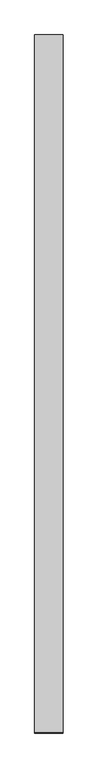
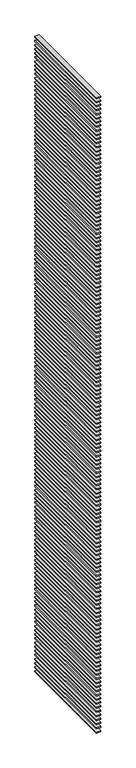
"""IFC4 building model written with IfcOpenShell, lengths in millimetres: proxy geometry, 水平ルーバー（Ｌ型） : ｈ50ｄ200＠200."""

from ifc_helpers import new_model, si_unit, frame, origin, place, context, project, spatial, polyline, outline, extrude, source, transform, mapped, element, save


def generic_models_310be010(model_context):
    return source(origin(), model_context, "Body", "SweptSolid", [
        extrude(outline(polyline([(-100.0, -4895.0), (-300.0, -4895.0), (-300.0, 0.0), (-100.0, 0.0), (-100.0, -4895.0)])), frame((0.0, 0.0, 30975.0), z_axis=(0.0, 0.0, 1.0), x_axis=(1.0, 0.0, 0.0)), (0.0, 0.0, 1.0), 50.0),
        extrude(outline(polyline([(-100.0, -4895.0), (-300.0, -4895.0), (-300.0, 0.0), (-100.0, 0.0), (-100.0, -4895.0)])), frame((0.0, 0.0, 30775.0), z_axis=(0.0, 0.0, 1.0), x_axis=(1.0, 0.0, 0.0)), (0.0, 0.0, 1.0), 50.0),
        extrude(outline(polyline([(-100.0, -4895.0), (-300.0, -4895.0), (-300.0, 0.0), (-100.0, 0.0), (-100.0, -4895.0)])), frame((0.0, 0.0, 30575.0), z_axis=(0.0, 0.0, 1.0), x_axis=(1.0, 0.0, 0.0)), (0.0, 0.0, 1.0), 50.0),
        extrude(outline(polyline([(-100.0, -4895.0), (-300.0, -4895.0), (-300.0, 0.0), (-100.0, 0.0), (-100.0, -4895.0)])), frame((0.0, 0.0, 30375.0), z_axis=(0.0, 0.0, 1.0), x_axis=(1.0, 0.0, 0.0)), (0.0, 0.0, 1.0), 50.0),
        extrude(outline(polyline([(-100.0, -4895.0), (-300.0, -4895.0), (-300.0, 0.0), (-100.0, 0.0), (-100.0, -4895.0)])), frame((0.0, 0.0, 30175.0), z_axis=(0.0, 0.0, 1.0), x_axis=(1.0, 0.0, 0.0)), (0.0, 0.0, 1.0), 50.0),
        extrude(outline(polyline([(-100.0, -4895.0), (-300.0, -4895.0), (-300.0, 0.0), (-100.0, 0.0), (-100.0, -4895.0)])), frame((0.0, 0.0, 29975.0), z_axis=(0.0, 0.0, 1.0), x_axis=(1.0, 0.0, 0.0)), (0.0, 0.0, 1.0), 50.0),
        extrude(outline(polyline([(-100.0, -4895.0), (-300.0, -4895.0), (-300.0, 0.0), (-100.0, 0.0), (-100.0, -4895.0)])), frame((0.0, 0.0, 29775.0), z_axis=(0.0, 0.0, 1.0), x_axis=(1.0, 0.0, 0.0)), (0.0, 0.0, 1.0), 50.0),
        extrude(outline(polyline([(-100.0, -4895.0), (-300.0, -4895.0), (-300.0, 0.0), (-100.0, 0.0), (-100.0, -4895.0)])), frame((0.0, 0.0, 29575.0), z_axis=(0.0, 0.0, 1.0), x_axis=(1.0, 0.0, 0.0)), (0.0, 0.0, 1.0), 50.0),
        extrude(outline(polyline([(-100.0, -4895.0), (-300.0, -4895.0), (-300.0, 0.0), (-100.0, 0.0), (-100.0, -4895.0)])), frame((0.0, 0.0, 29375.0), z_axis=(0.0, 0.0, 1.0), x_axis=(1.0, 0.0, 0.0)), (0.0, 0.0, 1.0), 50.0),
        extrude(outline(polyline([(-100.0, -4895.0), (-300.0, -4895.0), (-300.0, 0.0), (-100.0, 0.0), (-100.0, -4895.0)])), frame((0.0, 0.0, 29175.0), z_axis=(0.0, 0.0, 1.0), x_axis=(1.0, 0.0, 0.0)), (0.0, 0.0, 1.0), 50.0),
        extrude(outline(polyline([(-100.0, -4895.0), (-300.0, -4895.0), (-300.0, 0.0), (-100.0, 0.0), (-100.0, -4895.0)])), frame((0.0, 0.0, 28975.0), z_axis=(0.0, 0.0, 1.0), x_axis=(1.0, 0.0, 0.0)), (0.0, 0.0, 1.0), 50.0),
        extrude(outline(polyline([(-100.0, -4895.0), (-300.0, -4895.0), (-300.0, 0.0), (-100.0, 0.0), (-100.0, -4895.0)])), frame((0.0, 0.0, 28775.0), z_axis=(0.0, 0.0, 1.0), x_axis=(1.0, 0.0, 0.0)), (0.0, 0.0, 1.0), 50.0),
        extrude(outline(polyline([(-100.0, -4895.0), (-300.0, -4895.0), (-300.0, 0.0), (-100.0, 0.0), (-100.0, -4895.0)])), frame((0.0, 0.0, 28575.0), z_axis=(0.0, 0.0, 1.0), x_axis=(1.0, 0.0, 0.0)), (0.0, 0.0, 1.0), 50.0),
        extrude(outline(polyline([(-100.0, -4895.0), (-300.0, -4895.0), (-300.0, 0.0), (-100.0, 0.0), (-100.0, -4895.0)])), frame((0.0, 0.0, 28375.0), z_axis=(0.0, 0.0, 1.0), x_axis=(1.0, 0.0, 0.0)), (0.0, 0.0, 1.0), 50.0),
        extrude(outline(polyline([(-100.0, -4895.0), (-300.0, -4895.0), (-300.0, 0.0), (-100.0, 0.0), (-100.0, -4895.0)])), frame((0.0, 0.0, 28175.0), z_axis=(0.0, 0.0, 1.0), x_axis=(1.0, 0.0, 0.0)), (0.0, 0.0, 1.0), 50.0),
        extrude(outline(polyline([(-100.0, -4895.0), (-300.0, -4895.0), (-300.0, 0.0), (-100.0, 0.0), (-100.0, -4895.0)])), frame((0.0, 0.0, 27975.0), z_axis=(0.0, 0.0, 1.0), x_axis=(1.0, 0.0, 0.0)), (0.0, 0.0, 1.0), 50.0),
        extrude(outline(polyline([(-100.0, -4895.0), (-300.0, -4895.0), (-300.0, 0.0), (-100.0, 0.0), (-100.0, -4895.0)])), frame((0.0, 0.0, 27775.0), z_axis=(0.0, 0.0, 1.0), x_axis=(1.0, 0.0, 0.0)), (0.0, 0.0, 1.0), 50.0),
        extrude(outline(polyline([(-100.0, -4895.0), (-300.0, -4895.0), (-300.0, 0.0), (-100.0, 0.0), (-100.0, -4895.0)])), frame((0.0, 0.0, 27575.0), z_axis=(0.0, 0.0, 1.0), x_axis=(1.0, 0.0, 0.0)), (0.0, 0.0, 1.0), 50.0),
        extrude(outline(polyline([(-100.0, -4895.0), (-300.0, -4895.0), (-300.0, 0.0), (-100.0, 0.0), (-100.0, -4895.0)])), frame((0.0, 0.0, 27375.0), z_axis=(0.0, 0.0, 1.0), x_axis=(1.0, 0.0, 0.0)), (0.0, 0.0, 1.0), 50.0),
        extrude(outline(polyline([(-100.0, -4895.0), (-300.0, -4895.0), (-300.0, 0.0), (-100.0, 0.0), (-100.0, -4895.0)])), frame((0.0, 0.0, 27175.0), z_axis=(0.0, 0.0, 1.0), x_axis=(1.0, 0.0, 0.0)), (0.0, 0.0, 1.0), 50.0),
        extrude(outline(polyline([(-100.0, -4895.0), (-300.0, -4895.0), (-300.0, 0.0), (-100.0, 0.0), (-100.0, -4895.0)])), frame((0.0, 0.0, 26975.0), z_axis=(0.0, 0.0, 1.0), x_axis=(1.0, 0.0, 0.0)), (0.0, 0.0, 1.0), 50.0),
        extrude(outline(polyline([(-100.0, -4895.0), (-300.0, -4895.0), (-300.0, 0.0), (-100.0, 0.0), (-100.0, -4895.0)])), frame((0.0, 0.0, 26775.0), z_axis=(0.0, 0.0, 1.0), x_axis=(1.0, 0.0, 0.0)), (0.0, 0.0, 1.0), 50.0),
        extrude(outline(polyline([(-100.0, -4895.0), (-300.0, -4895.0), (-300.0, 0.0), (-100.0, 0.0), (-100.0, -4895.0)])), frame((0.0, 0.0, 26575.0), z_axis=(0.0, 0.0, 1.0), x_axis=(1.0, 0.0, 0.0)), (0.0, 0.0, 1.0), 50.0),
        extrude(outline(polyline([(-100.0, -4895.0), (-300.0, -4895.0), (-300.0, 0.0), (-100.0, 0.0), (-100.0, -4895.0)])), frame((0.0, 0.0, 26375.0), z_axis=(0.0, 0.0, 1.0), x_axis=(1.0, 0.0, 0.0)), (0.0, 0.0, 1.0), 50.0),
        extrude(outline(polyline([(-100.0, -4895.0), (-300.0, -4895.0), (-300.0, 0.0), (-100.0, 0.0), (-100.0, -4895.0)])), frame((0.0, 0.0, 26175.0), z_axis=(0.0, 0.0, 1.0), x_axis=(1.0, 0.0, 0.0)), (0.0, 0.0, 1.0), 50.0),
        extrude(outline(polyline([(-100.0, -4895.0), (-300.0, -4895.0), (-300.0, 0.0), (-100.0, 0.0), (-100.0, -4895.0)])), frame((0.0, 0.0, 25975.0), z_axis=(0.0, 0.0, 1.0), x_axis=(1.0, 0.0, 0.0)), (0.0, 0.0, 1.0), 50.0),
        extrude(outline(polyline([(-100.0, -4895.0), (-300.0, -4895.0), (-300.0, 0.0), (-100.0, 0.0), (-100.0, -4895.0)])), frame((0.0, 0.0, 25775.0), z_axis=(0.0, 0.0, 1.0), x_axis=(1.0, 0.0, 0.0)), (0.0, 0.0, 1.0), 50.0),
        extrude(outline(polyline([(-100.0, -4895.0), (-300.0, -4895.0), (-300.0, 0.0), (-100.0, 0.0), (-100.0, -4895.0)])), frame((0.0, 0.0, 25575.0), z_axis=(0.0, 0.0, 1.0), x_axis=(1.0, 0.0, 0.0)), (0.0, 0.0, 1.0), 50.0),
        extrude(outline(polyline([(-100.0, -4895.0), (-300.0, -4895.0), (-300.0, 0.0), (-100.0, 0.0), (-100.0, -4895.0)])), frame((0.0, 0.0, 25375.0), z_axis=(0.0, 0.0, 1.0), x_axis=(1.0, 0.0, 0.0)), (0.0, 0.0, 1.0), 50.0),
        extrude(outline(polyline([(-100.0, -4895.0), (-300.0, -4895.0), (-300.0, 0.0), (-100.0, 0.0), (-100.0, -4895.0)])), frame((0.0, 0.0, 25175.0), z_axis=(0.0, 0.0, 1.0), x_axis=(1.0, 0.0, 0.0)), (0.0, 0.0, 1.0), 50.0),
        extrude(outline(polyline([(-100.0, -4895.0), (-300.0, -4895.0), (-300.0, 0.0), (-100.0, 0.0), (-100.0, -4895.0)])), frame((0.0, 0.0, 24975.0), z_axis=(0.0, 0.0, 1.0), x_axis=(1.0, 0.0, 0.0)), (0.0, 0.0, 1.0), 50.0),
        extrude(outline(polyline([(-100.0, -4895.0), (-300.0, -4895.0), (-300.0, 0.0), (-100.0, 0.0), (-100.0, -4895.0)])), frame((0.0, 0.0, 24775.0), z_axis=(0.0, 0.0, 1.0), x_axis=(1.0, 0.0, 0.0)), (0.0, 0.0, 1.0), 50.0),
        extrude(outline(polyline([(-100.0, -4895.0), (-300.0, -4895.0), (-300.0, 0.0), (-100.0, 0.0), (-100.0, -4895.0)])), frame((0.0, 0.0, 24575.0), z_axis=(0.0, 0.0, 1.0), x_axis=(1.0, 0.0, 0.0)), (0.0, 0.0, 1.0), 50.0),
        extrude(outline(polyline([(-100.0, -4895.0), (-300.0, -4895.0), (-300.0, 0.0), (-100.0, 0.0), (-100.0, -4895.0)])), frame((0.0, 0.0, 24375.0), z_axis=(0.0, 0.0, 1.0), x_axis=(1.0, 0.0, 0.0)), (0.0, 0.0, 1.0), 50.0),
        extrude(outline(polyline([(-100.0, -4895.0), (-300.0, -4895.0), (-300.0, 0.0), (-100.0, 0.0), (-100.0, -4895.0)])), frame((0.0, 0.0, 24175.0), z_axis=(0.0, 0.0, 1.0), x_axis=(1.0, 0.0, 0.0)), (0.0, 0.0, 1.0), 50.0),
        extrude(outline(polyline([(-100.0, -4895.0), (-300.0, -4895.0), (-300.0, 0.0), (-100.0, 0.0), (-100.0, -4895.0)])), frame((0.0, 0.0, 23975.0), z_axis=(0.0, 0.0, 1.0), x_axis=(1.0, 0.0, 0.0)), (0.0, 0.0, 1.0), 50.0),
        extrude(outline(polyline([(-100.0, -4895.0), (-300.0, -4895.0), (-300.0, 0.0), (-100.0, 0.0), (-100.0, -4895.0)])), frame((0.0, 0.0, 23775.0), z_axis=(0.0, 0.0, 1.0), x_axis=(1.0, 0.0, 0.0)), (0.0, 0.0, 1.0), 50.0),
        extrude(outline(polyline([(-100.0, -4895.0), (-300.0, -4895.0), (-300.0, 0.0), (-100.0, 0.0), (-100.0, -4895.0)])), frame((0.0, 0.0, 23575.0), z_axis=(0.0, 0.0, 1.0), x_axis=(1.0, 0.0, 0.0)), (0.0, 0.0, 1.0), 50.0),
        extrude(outline(polyline([(-100.0, -4895.0), (-300.0, -4895.0), (-300.0, 0.0), (-100.0, 0.0), (-100.0, -4895.0)])), frame((0.0, 0.0, 23375.0), z_axis=(0.0, 0.0, 1.0), x_axis=(1.0, 0.0, 0.0)), (0.0, 0.0, 1.0), 50.0),
        extrude(outline(polyline([(-100.0, -4895.0), (-300.0, -4895.0), (-300.0, 0.0), (-100.0, 0.0), (-100.0, -4895.0)])), frame((0.0, 0.0, 23175.0), z_axis=(0.0, 0.0, 1.0), x_axis=(1.0, 0.0, 0.0)), (0.0, 0.0, 1.0), 50.0),
        extrude(outline(polyline([(-100.0, -4895.0), (-300.0, -4895.0), (-300.0, 0.0), (-100.0, 0.0), (-100.0, -4895.0)])), frame((0.0, 0.0, 22975.0), z_axis=(0.0, 0.0, 1.0), x_axis=(1.0, 0.0, 0.0)), (0.0, 0.0, 1.0), 50.0),
        extrude(outline(polyline([(-100.0, -4895.0), (-300.0, -4895.0), (-300.0, 0.0), (-100.0, 0.0), (-100.0, -4895.0)])), frame((0.0, 0.0, 22775.0), z_axis=(0.0, 0.0, 1.0), x_axis=(1.0, 0.0, 0.0)), (0.0, 0.0, 1.0), 50.0),
        extrude(outline(polyline([(-100.0, -4895.0), (-300.0, -4895.0), (-300.0, 0.0), (-100.0, 0.0), (-100.0, -4895.0)])), frame((0.0, 0.0, 22575.0), z_axis=(0.0, 0.0, 1.0), x_axis=(1.0, 0.0, 0.0)), (0.0, 0.0, 1.0), 50.0),
        extrude(outline(polyline([(-100.0, -4895.0), (-300.0, -4895.0), (-300.0, 0.0), (-100.0, 0.0), (-100.0, -4895.0)])), frame((0.0, 0.0, 22375.0), z_axis=(0.0, 0.0, 1.0), x_axis=(1.0, 0.0, 0.0)), (0.0, 0.0, 1.0), 50.0),
        extrude(outline(polyline([(-100.0, -4895.0), (-300.0, -4895.0), (-300.0, 0.0), (-100.0, 0.0), (-100.0, -4895.0)])), frame((0.0, 0.0, 22175.0), z_axis=(0.0, 0.0, 1.0), x_axis=(1.0, 0.0, 0.0)), (0.0, 0.0, 1.0), 50.0),
        extrude(outline(polyline([(-100.0, -4895.0), (-300.0, -4895.0), (-300.0, 0.0), (-100.0, 0.0), (-100.0, -4895.0)])), frame((0.0, 0.0, 21975.0), z_axis=(0.0, 0.0, 1.0), x_axis=(1.0, 0.0, 0.0)), (0.0, 0.0, 1.0), 50.0),
        extrude(outline(polyline([(-100.0, -4895.0), (-300.0, -4895.0), (-300.0, 0.0), (-100.0, 0.0), (-100.0, -4895.0)])), frame((0.0, 0.0, 21775.0), z_axis=(0.0, 0.0, 1.0), x_axis=(1.0, 0.0, 0.0)), (0.0, 0.0, 1.0), 50.0),
        extrude(outline(polyline([(-100.0, -4895.0), (-300.0, -4895.0), (-300.0, 0.0), (-100.0, 0.0), (-100.0, -4895.0)])), frame((0.0, 0.0, 21575.0), z_axis=(0.0, 0.0, 1.0), x_axis=(1.0, 0.0, 0.0)), (0.0, 0.0, 1.0), 50.0),
        extrude(outline(polyline([(-100.0, -4895.0), (-300.0, -4895.0), (-300.0, 0.0), (-100.0, 0.0), (-100.0, -4895.0)])), frame((0.0, 0.0, 21375.0), z_axis=(0.0, 0.0, 1.0), x_axis=(1.0, 0.0, 0.0)), (0.0, 0.0, 1.0), 50.0),
        extrude(outline(polyline([(-100.0, -4895.0), (-300.0, -4895.0), (-300.0, 0.0), (-100.0, 0.0), (-100.0, -4895.0)])), frame((0.0, 0.0, 21175.0), z_axis=(0.0, 0.0, 1.0), x_axis=(1.0, 0.0, 0.0)), (0.0, 0.0, 1.0), 50.0),
        extrude(outline(polyline([(-100.0, -4895.0), (-300.0, -4895.0), (-300.0, 0.0), (-100.0, 0.0), (-100.0, -4895.0)])), frame((0.0, 0.0, 20975.0), z_axis=(0.0, 0.0, 1.0), x_axis=(1.0, 0.0, 0.0)), (0.0, 0.0, 1.0), 50.0),
        extrude(outline(polyline([(-100.0, -4895.0), (-300.0, -4895.0), (-300.0, 0.0), (-100.0, 0.0), (-100.0, -4895.0)])), frame((0.0, 0.0, 20775.0), z_axis=(0.0, 0.0, 1.0), x_axis=(1.0, 0.0, 0.0)), (0.0, 0.0, 1.0), 50.0),
        extrude(outline(polyline([(-100.0, -4895.0), (-300.0, -4895.0), (-300.0, 0.0), (-100.0, 0.0), (-100.0, -4895.0)])), frame((0.0, 0.0, 20575.0), z_axis=(0.0, 0.0, 1.0), x_axis=(1.0, 0.0, 0.0)), (0.0, 0.0, 1.0), 50.0),
        extrude(outline(polyline([(-100.0, -4895.0), (-300.0, -4895.0), (-300.0, 0.0), (-100.0, 0.0), (-100.0, -4895.0)])), frame((0.0, 0.0, 20375.0), z_axis=(0.0, 0.0, 1.0), x_axis=(1.0, 0.0, 0.0)), (0.0, 0.0, 1.0), 50.0),
        extrude(outline(polyline([(-100.0, -4895.0), (-300.0, -4895.0), (-300.0, 0.0), (-100.0, 0.0), (-100.0, -4895.0)])), frame((0.0, 0.0, 20175.0), z_axis=(0.0, 0.0, 1.0), x_axis=(1.0, 0.0, 0.0)), (0.0, 0.0, 1.0), 50.0),
        extrude(outline(polyline([(-100.0, -4895.0), (-300.0, -4895.0), (-300.0, 0.0), (-100.0, 0.0), (-100.0, -4895.0)])), frame((0.0, 0.0, 19975.0), z_axis=(0.0, 0.0, 1.0), x_axis=(1.0, 0.0, 0.0)), (0.0, 0.0, 1.0), 50.0),
        extrude(outline(polyline([(-100.0, -4895.0), (-300.0, -4895.0), (-300.0, 0.0), (-100.0, 0.0), (-100.0, -4895.0)])), frame((0.0, 0.0, 19775.0), z_axis=(0.0, 0.0, 1.0), x_axis=(1.0, 0.0, 0.0)), (0.0, 0.0, 1.0), 50.0),
        extrude(outline(polyline([(-100.0, -4895.0), (-300.0, -4895.0), (-300.0, 0.0), (-100.0, 0.0), (-100.0, -4895.0)])), frame((0.0, 0.0, 19575.0), z_axis=(0.0, 0.0, 1.0), x_axis=(1.0, 0.0, 0.0)), (0.0, 0.0, 1.0), 50.0),
        extrude(outline(polyline([(-100.0, -4895.0), (-300.0, -4895.0), (-300.0, 0.0), (-100.0, 0.0), (-100.0, -4895.0)])), frame((0.0, 0.0, 19375.0), z_axis=(0.0, 0.0, 1.0), x_axis=(1.0, 0.0, 0.0)), (0.0, 0.0, 1.0), 50.0),
        extrude(outline(polyline([(-100.0, -4895.0), (-300.0, -4895.0), (-300.0, 0.0), (-100.0, 0.0), (-100.0, -4895.0)])), frame((0.0, 0.0, 19175.0), z_axis=(0.0, 0.0, 1.0), x_axis=(1.0, 0.0, 0.0)), (0.0, 0.0, 1.0), 50.0),
        extrude(outline(polyline([(-100.0, -4895.0), (-300.0, -4895.0), (-300.0, 0.0), (-100.0, 0.0), (-100.0, -4895.0)])), frame((0.0, 0.0, 18975.0), z_axis=(0.0, 0.0, 1.0), x_axis=(1.0, 0.0, 0.0)), (0.0, 0.0, 1.0), 50.0),
        extrude(outline(polyline([(-100.0, -4895.0), (-300.0, -4895.0), (-300.0, 0.0), (-100.0, 0.0), (-100.0, -4895.0)])), frame((0.0, 0.0, 18775.0), z_axis=(0.0, 0.0, 1.0), x_axis=(1.0, 0.0, 0.0)), (0.0, 0.0, 1.0), 50.0),
        extrude(outline(polyline([(-100.0, -4895.0), (-300.0, -4895.0), (-300.0, 0.0), (-100.0, 0.0), (-100.0, -4895.0)])), frame((0.0, 0.0, 18575.0), z_axis=(0.0, 0.0, 1.0), x_axis=(1.0, 0.0, 0.0)), (0.0, 0.0, 1.0), 50.0),
        extrude(outline(polyline([(-100.0, -4895.0), (-300.0, -4895.0), (-300.0, 0.0), (-100.0, 0.0), (-100.0, -4895.0)])), frame((0.0, 0.0, 18375.0), z_axis=(0.0, 0.0, 1.0), x_axis=(1.0, 0.0, 0.0)), (0.0, 0.0, 1.0), 50.0),
        extrude(outline(polyline([(-100.0, -4895.0), (-300.0, -4895.0), (-300.0, 0.0), (-100.0, 0.0), (-100.0, -4895.0)])), frame((0.0, 0.0, 18175.0), z_axis=(0.0, 0.0, 1.0), x_axis=(1.0, 0.0, 0.0)), (0.0, 0.0, 1.0), 50.0),
        extrude(outline(polyline([(-100.0, -4895.0), (-300.0, -4895.0), (-300.0, 0.0), (-100.0, 0.0), (-100.0, -4895.0)])), frame((0.0, 0.0, 17975.0), z_axis=(0.0, 0.0, 1.0), x_axis=(1.0, 0.0, 0.0)), (0.0, 0.0, 1.0), 50.0),
        extrude(outline(polyline([(-100.0, -4895.0), (-300.0, -4895.0), (-300.0, 0.0), (-100.0, 0.0), (-100.0, -4895.0)])), frame((0.0, 0.0, 17775.0), z_axis=(0.0, 0.0, 1.0), x_axis=(1.0, 0.0, 0.0)), (0.0, 0.0, 1.0), 50.0),
        extrude(outline(polyline([(-100.0, -4895.0), (-300.0, -4895.0), (-300.0, 0.0), (-100.0, 0.0), (-100.0, -4895.0)])), frame((0.0, 0.0, 17575.0), z_axis=(0.0, 0.0, 1.0), x_axis=(1.0, 0.0, 0.0)), (0.0, 0.0, 1.0), 50.0),
        extrude(outline(polyline([(-100.0, -4895.0), (-300.0, -4895.0), (-300.0, 0.0), (-100.0, 0.0), (-100.0, -4895.0)])), frame((0.0, 0.0, 17375.0), z_axis=(0.0, 0.0, 1.0), x_axis=(1.0, 0.0, 0.0)), (0.0, 0.0, 1.0), 50.0),
        extrude(outline(polyline([(-100.0, -4895.0), (-300.0, -4895.0), (-300.0, 0.0), (-100.0, 0.0), (-100.0, -4895.0)])), frame((0.0, 0.0, 17175.0), z_axis=(0.0, 0.0, 1.0), x_axis=(1.0, 0.0, 0.0)), (0.0, 0.0, 1.0), 50.0),
        extrude(outline(polyline([(-100.0, -4895.0), (-300.0, -4895.0), (-300.0, 0.0), (-100.0, 0.0), (-100.0, -4895.0)])), frame((0.0, 0.0, 16975.0), z_axis=(0.0, 0.0, 1.0), x_axis=(1.0, 0.0, 0.0)), (0.0, 0.0, 1.0), 50.0),
        extrude(outline(polyline([(-100.0, -4895.0), (-300.0, -4895.0), (-300.0, 0.0), (-100.0, 0.0), (-100.0, -4895.0)])), frame((0.0, 0.0, 16775.0), z_axis=(0.0, 0.0, 1.0), x_axis=(1.0, 0.0, 0.0)), (0.0, 0.0, 1.0), 50.0),
        extrude(outline(polyline([(-100.0, -4895.0), (-300.0, -4895.0), (-300.0, 0.0), (-100.0, 0.0), (-100.0, -4895.0)])), frame((0.0, 0.0, 16575.0), z_axis=(0.0, 0.0, 1.0), x_axis=(1.0, 0.0, 0.0)), (0.0, 0.0, 1.0), 50.0),
        extrude(outline(polyline([(-100.0, -4895.0), (-300.0, -4895.0), (-300.0, 0.0), (-100.0, 0.0), (-100.0, -4895.0)])), frame((0.0, 0.0, 16375.0), z_axis=(0.0, 0.0, 1.0), x_axis=(1.0, 0.0, 0.0)), (0.0, 0.0, 1.0), 50.0),
        extrude(outline(polyline([(-100.0, -4895.0), (-300.0, -4895.0), (-300.0, 0.0), (-100.0, 0.0), (-100.0, -4895.0)])), frame((0.0, 0.0, 16175.0), z_axis=(0.0, 0.0, 1.0), x_axis=(1.0, 0.0, 0.0)), (0.0, 0.0, 1.0), 50.0),
        extrude(outline(polyline([(-100.0, -4895.0), (-300.0, -4895.0), (-300.0, 0.0), (-100.0, 0.0), (-100.0, -4895.0)])), frame((0.0, 0.0, 15975.0), z_axis=(0.0, 0.0, 1.0), x_axis=(1.0, 0.0, 0.0)), (0.0, 0.0, 1.0), 50.0),
        extrude(outline(polyline([(-100.0, -4895.0), (-300.0, -4895.0), (-300.0, 0.0), (-100.0, 0.0), (-100.0, -4895.0)])), frame((0.0, 0.0, 15775.0), z_axis=(0.0, 0.0, 1.0), x_axis=(1.0, 0.0, 0.0)), (0.0, 0.0, 1.0), 50.0),
        extrude(outline(polyline([(-100.0, -4895.0), (-300.0, -4895.0), (-300.0, 0.0), (-100.0, 0.0), (-100.0, -4895.0)])), frame((0.0, 0.0, 15575.0), z_axis=(0.0, 0.0, 1.0), x_axis=(1.0, 0.0, 0.0)), (0.0, 0.0, 1.0), 50.0),
        extrude(outline(polyline([(-100.0, -4895.0), (-300.0, -4895.0), (-300.0, 0.0), (-100.0, 0.0), (-100.0, -4895.0)])), frame((0.0, 0.0, 15375.0), z_axis=(0.0, 0.0, 1.0), x_axis=(1.0, 0.0, 0.0)), (0.0, 0.0, 1.0), 50.0),
        extrude(outline(polyline([(-100.0, -4895.0), (-300.0, -4895.0), (-300.0, 0.0), (-100.0, 0.0), (-100.0, -4895.0)])), frame((0.0, 0.0, 15175.0), z_axis=(0.0, 0.0, 1.0), x_axis=(1.0, 0.0, 0.0)), (0.0, 0.0, 1.0), 50.0),
        extrude(outline(polyline([(-100.0, -4895.0), (-300.0, -4895.0), (-300.0, 0.0), (-100.0, 0.0), (-100.0, -4895.0)])), frame((0.0, 0.0, 14975.0), z_axis=(0.0, 0.0, 1.0), x_axis=(1.0, 0.0, 0.0)), (0.0, 0.0, 1.0), 50.0),
        extrude(outline(polyline([(-100.0, -4895.0), (-300.0, -4895.0), (-300.0, 0.0), (-100.0, 0.0), (-100.0, -4895.0)])), frame((0.0, 0.0, 14775.0), z_axis=(0.0, 0.0, 1.0), x_axis=(1.0, 0.0, 0.0)), (0.0, 0.0, 1.0), 50.0),
        extrude(outline(polyline([(-100.0, -4895.0), (-300.0, -4895.0), (-300.0, 0.0), (-100.0, 0.0), (-100.0, -4895.0)])), frame((0.0, 0.0, 14575.0), z_axis=(0.0, 0.0, 1.0), x_axis=(1.0, 0.0, 0.0)), (0.0, 0.0, 1.0), 50.0),
        extrude(outline(polyline([(-100.0, -4895.0), (-300.0, -4895.0), (-300.0, 0.0), (-100.0, 0.0), (-100.0, -4895.0)])), frame((0.0, 0.0, 14375.0), z_axis=(0.0, 0.0, 1.0), x_axis=(1.0, 0.0, 0.0)), (0.0, 0.0, 1.0), 50.0),
        extrude(outline(polyline([(-100.0, -4895.0), (-300.0, -4895.0), (-300.0, 0.0), (-100.0, 0.0), (-100.0, -4895.0)])), frame((0.0, 0.0, 14175.0), z_axis=(0.0, 0.0, 1.0), x_axis=(1.0, 0.0, 0.0)), (0.0, 0.0, 1.0), 50.0),
        extrude(outline(polyline([(-100.0, -4895.0), (-300.0, -4895.0), (-300.0, 0.0), (-100.0, 0.0), (-100.0, -4895.0)])), frame((0.0, 0.0, 13975.0), z_axis=(0.0, 0.0, 1.0), x_axis=(1.0, 0.0, 0.0)), (0.0, 0.0, 1.0), 50.0),
        extrude(outline(polyline([(-100.0, -4895.0), (-300.0, -4895.0), (-300.0, 0.0), (-100.0, 0.0), (-100.0, -4895.0)])), frame((0.0, 0.0, 13775.0), z_axis=(0.0, 0.0, 1.0), x_axis=(1.0, 0.0, 0.0)), (0.0, 0.0, 1.0), 50.0),
        extrude(outline(polyline([(-100.0, -4895.0), (-300.0, -4895.0), (-300.0, 0.0), (-100.0, 0.0), (-100.0, -4895.0)])), frame((0.0, 0.0, 13575.0), z_axis=(0.0, 0.0, 1.0), x_axis=(1.0, 0.0, 0.0)), (0.0, 0.0, 1.0), 50.0),
        extrude(outline(polyline([(-100.0, -4895.0), (-300.0, -4895.0), (-300.0, 0.0), (-100.0, 0.0), (-100.0, -4895.0)])), frame((0.0, 0.0, 13375.0), z_axis=(0.0, 0.0, 1.0), x_axis=(1.0, 0.0, 0.0)), (0.0, 0.0, 1.0), 50.0),
        extrude(outline(polyline([(-100.0, -4895.0), (-300.0, -4895.0), (-300.0, 0.0), (-100.0, 0.0), (-100.0, -4895.0)])), frame((0.0, 0.0, 13175.0), z_axis=(0.0, 0.0, 1.0), x_axis=(1.0, 0.0, 0.0)), (0.0, 0.0, 1.0), 50.0),
        extrude(outline(polyline([(-100.0, -4895.0), (-300.0, -4895.0), (-300.0, 0.0), (-100.0, 0.0), (-100.0, -4895.0)])), frame((0.0, 0.0, 12975.0), z_axis=(0.0, 0.0, 1.0), x_axis=(1.0, 0.0, 0.0)), (0.0, 0.0, 1.0), 50.0),
        extrude(outline(polyline([(-100.0, -4895.0), (-300.0, -4895.0), (-300.0, 0.0), (-100.0, 0.0), (-100.0, -4895.0)])), frame((0.0, 0.0, 12775.0), z_axis=(0.0, 0.0, 1.0), x_axis=(1.0, 0.0, 0.0)), (0.0, 0.0, 1.0), 50.0),
        extrude(outline(polyline([(-100.0, -4895.0), (-300.0, -4895.0), (-300.0, 0.0), (-100.0, 0.0), (-100.0, -4895.0)])), frame((0.0, 0.0, 12575.0), z_axis=(0.0, 0.0, 1.0), x_axis=(1.0, 0.0, 0.0)), (0.0, 0.0, 1.0), 50.0),
        extrude(outline(polyline([(-100.0, -4895.0), (-300.0, -4895.0), (-300.0, 0.0), (-100.0, 0.0), (-100.0, -4895.0)])), frame((0.0, 0.0, 12375.0), z_axis=(0.0, 0.0, 1.0), x_axis=(1.0, 0.0, 0.0)), (0.0, 0.0, 1.0), 50.0),
        extrude(outline(polyline([(-100.0, -4895.0), (-300.0, -4895.0), (-300.0, 0.0), (-100.0, 0.0), (-100.0, -4895.0)])), frame((0.0, 0.0, 12175.0), z_axis=(0.0, 0.0, 1.0), x_axis=(1.0, 0.0, 0.0)), (0.0, 0.0, 1.0), 50.0),
        extrude(outline(polyline([(-100.0, -4895.0), (-300.0, -4895.0), (-300.0, 0.0), (-100.0, 0.0), (-100.0, -4895.0)])), frame((0.0, 0.0, 11975.0), z_axis=(0.0, 0.0, 1.0), x_axis=(1.0, 0.0, 0.0)), (0.0, 0.0, 1.0), 50.0),
        extrude(outline(polyline([(-100.0, -4895.0), (-300.0, -4895.0), (-300.0, 0.0), (-100.0, 0.0), (-100.0, -4895.0)])), frame((0.0, 0.0, 11775.0), z_axis=(0.0, 0.0, 1.0), x_axis=(1.0, 0.0, 0.0)), (0.0, 0.0, 1.0), 50.0),
        extrude(outline(polyline([(-100.0, -4895.0), (-300.0, -4895.0), (-300.0, 0.0), (-100.0, 0.0), (-100.0, -4895.0)])), frame((0.0, 0.0, 11575.0), z_axis=(0.0, 0.0, 1.0), x_axis=(1.0, 0.0, 0.0)), (0.0, 0.0, 1.0), 50.0),
        extrude(outline(polyline([(-100.0, -4895.0), (-300.0, -4895.0), (-300.0, 0.0), (-100.0, 0.0), (-100.0, -4895.0)])), frame((0.0, 0.0, 11375.0), z_axis=(0.0, 0.0, 1.0), x_axis=(1.0, 0.0, 0.0)), (0.0, 0.0, 1.0), 50.0),
        extrude(outline(polyline([(-100.0, -4895.0), (-300.0, -4895.0), (-300.0, 0.0), (-100.0, 0.0), (-100.0, -4895.0)])), frame((0.0, 0.0, 11175.0), z_axis=(0.0, 0.0, 1.0), x_axis=(1.0, 0.0, 0.0)), (0.0, 0.0, 1.0), 50.0),
        extrude(outline(polyline([(-100.0, -4895.0), (-300.0, -4895.0), (-300.0, 0.0), (-100.0, 0.0), (-100.0, -4895.0)])), frame((0.0, 0.0, 10975.0), z_axis=(0.0, 0.0, 1.0), x_axis=(1.0, 0.0, 0.0)), (0.0, 0.0, 1.0), 50.0),
        extrude(outline(polyline([(-100.0, -4895.0), (-300.0, -4895.0), (-300.0, 0.0), (-100.0, 0.0), (-100.0, -4895.0)])), frame((0.0, 0.0, 10775.0), z_axis=(0.0, 0.0, 1.0), x_axis=(1.0, 0.0, 0.0)), (0.0, 0.0, 1.0), 50.0),
        extrude(outline(polyline([(-100.0, -4895.0), (-300.0, -4895.0), (-300.0, 0.0), (-100.0, 0.0), (-100.0, -4895.0)])), frame((0.0, 0.0, 10575.0), z_axis=(0.0, 0.0, 1.0), x_axis=(1.0, 0.0, 0.0)), (0.0, 0.0, 1.0), 50.0),
        extrude(outline(polyline([(-100.0, -4895.0), (-300.0, -4895.0), (-300.0, 0.0), (-100.0, 0.0), (-100.0, -4895.0)])), frame((0.0, 0.0, 10375.0), z_axis=(0.0, 0.0, 1.0), x_axis=(1.0, 0.0, 0.0)), (0.0, 0.0, 1.0), 50.0),
        extrude(outline(polyline([(-100.0, -4895.0), (-300.0, -4895.0), (-300.0, 0.0), (-100.0, 0.0), (-100.0, -4895.0)])), frame((0.0, 0.0, 10175.0), z_axis=(0.0, 0.0, 1.0), x_axis=(1.0, 0.0, 0.0)), (0.0, 0.0, 1.0), 50.0),
        extrude(outline(polyline([(-100.0, -4895.0), (-300.0, -4895.0), (-300.0, 0.0), (-100.0, 0.0), (-100.0, -4895.0)])), frame((0.0, 0.0, 9975.0), z_axis=(0.0, 0.0, 1.0), x_axis=(1.0, 0.0, 0.0)), (0.0, 0.0, 1.0), 50.0),
        extrude(outline(polyline([(-100.0, -4895.0), (-300.0, -4895.0), (-300.0, 0.0), (-100.0, 0.0), (-100.0, -4895.0)])), frame((0.0, 0.0, 9775.0), z_axis=(0.0, 0.0, 1.0), x_axis=(1.0, 0.0, 0.0)), (0.0, 0.0, 1.0), 50.0),
        extrude(outline(polyline([(-100.0, -4895.0), (-300.0, -4895.0), (-300.0, 0.0), (-100.0, 0.0), (-100.0, -4895.0)])), frame((0.0, 0.0, 9575.0), z_axis=(0.0, 0.0, 1.0), x_axis=(1.0, 0.0, 0.0)), (0.0, 0.0, 1.0), 50.0),
        extrude(outline(polyline([(-100.0, -4895.0), (-300.0, -4895.0), (-300.0, 0.0), (-100.0, 0.0), (-100.0, -4895.0)])), frame((0.0, 0.0, 9375.0), z_axis=(0.0, 0.0, 1.0), x_axis=(1.0, 0.0, 0.0)), (0.0, 0.0, 1.0), 50.0),
        extrude(outline(polyline([(-100.0, -4895.0), (-300.0, -4895.0), (-300.0, 0.0), (-100.0, 0.0), (-100.0, -4895.0)])), frame((0.0, 0.0, 9175.0), z_axis=(0.0, 0.0, 1.0), x_axis=(1.0, 0.0, 0.0)), (0.0, 0.0, 1.0), 50.0),
        extrude(outline(polyline([(-100.0, -4895.0), (-300.0, -4895.0), (-300.0, 0.0), (-100.0, 0.0), (-100.0, -4895.0)])), frame((0.0, 0.0, 8975.0), z_axis=(0.0, 0.0, 1.0), x_axis=(1.0, 0.0, 0.0)), (0.0, 0.0, 1.0), 50.0),
        extrude(outline(polyline([(-100.0, -4895.0), (-300.0, -4895.0), (-300.0, 0.0), (-100.0, 0.0), (-100.0, -4895.0)])), frame((0.0, 0.0, 8775.0), z_axis=(0.0, 0.0, 1.0), x_axis=(1.0, 0.0, 0.0)), (0.0, 0.0, 1.0), 50.0),
        extrude(outline(polyline([(-100.0, -4895.0), (-300.0, -4895.0), (-300.0, 0.0), (-100.0, 0.0), (-100.0, -4895.0)])), frame((0.0, 0.0, 8575.0), z_axis=(0.0, 0.0, 1.0), x_axis=(1.0, 0.0, 0.0)), (0.0, 0.0, 1.0), 50.0),
        extrude(outline(polyline([(-100.0, -4895.0), (-300.0, -4895.0), (-300.0, 0.0), (-100.0, 0.0), (-100.0, -4895.0)])), frame((0.0, 0.0, 8375.0), z_axis=(0.0, 0.0, 1.0), x_axis=(1.0, 0.0, 0.0)), (0.0, 0.0, 1.0), 50.0),
        extrude(outline(polyline([(-100.0, -4895.0), (-300.0, -4895.0), (-300.0, 0.0), (-100.0, 0.0), (-100.0, -4895.0)])), frame((0.0, 0.0, 8175.0), z_axis=(0.0, 0.0, 1.0), x_axis=(1.0, 0.0, 0.0)), (0.0, 0.0, 1.0), 50.0),
        extrude(outline(polyline([(-100.0, -4895.0), (-300.0, -4895.0), (-300.0, 0.0), (-100.0, 0.0), (-100.0, -4895.0)])), frame((0.0, 0.0, 7975.0), z_axis=(0.0, 0.0, 1.0), x_axis=(1.0, 0.0, 0.0)), (0.0, 0.0, 1.0), 50.0),
        extrude(outline(polyline([(-100.0, -4895.0), (-300.0, -4895.0), (-300.0, 0.0), (-100.0, 0.0), (-100.0, -4895.0)])), frame((0.0, 0.0, 7775.0), z_axis=(0.0, 0.0, 1.0), x_axis=(1.0, 0.0, 0.0)), (0.0, 0.0, 1.0), 50.0),
        extrude(outline(polyline([(-100.0, -4895.0), (-300.0, -4895.0), (-300.0, 0.0), (-100.0, 0.0), (-100.0, -4895.0)])), frame((0.0, 0.0, 7575.0), z_axis=(0.0, 0.0, 1.0), x_axis=(1.0, 0.0, 0.0)), (0.0, 0.0, 1.0), 50.0),
        extrude(outline(polyline([(-100.0, -4895.0), (-300.0, -4895.0), (-300.0, 0.0), (-100.0, 0.0), (-100.0, -4895.0)])), frame((0.0, 0.0, 7375.0), z_axis=(0.0, 0.0, 1.0), x_axis=(1.0, 0.0, 0.0)), (0.0, 0.0, 1.0), 50.0),
        extrude(outline(polyline([(-100.0, -4895.0), (-300.0, -4895.0), (-300.0, 0.0), (-100.0, 0.0), (-100.0, -4895.0)])), frame((0.0, 0.0, 7175.0), z_axis=(0.0, 0.0, 1.0), x_axis=(1.0, 0.0, 0.0)), (0.0, 0.0, 1.0), 50.0),
        extrude(outline(polyline([(-100.0, -4895.0), (-300.0, -4895.0), (-300.0, 0.0), (-100.0, 0.0), (-100.0, -4895.0)])), frame((0.0, 0.0, 6975.0), z_axis=(0.0, 0.0, 1.0), x_axis=(1.0, 0.0, 0.0)), (0.0, 0.0, 1.0), 50.0),
        extrude(outline(polyline([(-100.0, -4895.0), (-300.0, -4895.0), (-300.0, 0.0), (-100.0, 0.0), (-100.0, -4895.0)])), frame((0.0, 0.0, 6775.0), z_axis=(0.0, 0.0, 1.0), x_axis=(1.0, 0.0, 0.0)), (0.0, 0.0, 1.0), 50.0),
        extrude(outline(polyline([(-100.0, -4895.0), (-300.0, -4895.0), (-300.0, 0.0), (-100.0, 0.0), (-100.0, -4895.0)])), frame((0.0, 0.0, 6575.0), z_axis=(0.0, 0.0, 1.0), x_axis=(1.0, 0.0, 0.0)), (0.0, 0.0, 1.0), 50.0),
        extrude(outline(polyline([(-100.0, -4895.0), (-300.0, -4895.0), (-300.0, 0.0), (-100.0, 0.0), (-100.0, -4895.0)])), frame((0.0, 0.0, 6375.0), z_axis=(0.0, 0.0, 1.0), x_axis=(1.0, 0.0, 0.0)), (0.0, 0.0, 1.0), 50.0),
        extrude(outline(polyline([(-100.0, -4895.0), (-300.0, -4895.0), (-300.0, 0.0), (-100.0, 0.0), (-100.0, -4895.0)])), frame((0.0, 0.0, 6175.0), z_axis=(0.0, 0.0, 1.0), x_axis=(1.0, 0.0, 0.0)), (0.0, 0.0, 1.0), 50.0),
        extrude(outline(polyline([(-100.0, -4895.0), (-300.0, -4895.0), (-300.0, 0.0), (-100.0, 0.0), (-100.0, -4895.0)])), frame((0.0, 0.0, 5975.0), z_axis=(0.0, 0.0, 1.0), x_axis=(1.0, 0.0, 0.0)), (0.0, 0.0, 1.0), 50.0),
        extrude(outline(polyline([(-100.0, -4895.0), (-300.0, -4895.0), (-300.0, 0.0), (-100.0, 0.0), (-100.0, -4895.0)])), frame((0.0, 0.0, 5775.0), z_axis=(0.0, 0.0, 1.0), x_axis=(1.0, 0.0, 0.0)), (0.0, 0.0, 1.0), 50.0),
        extrude(outline(polyline([(-100.0, -4895.0), (-300.0, -4895.0), (-300.0, 0.0), (-100.0, 0.0), (-100.0, -4895.0)])), frame((0.0, 0.0, 5575.0), z_axis=(0.0, 0.0, 1.0), x_axis=(1.0, 0.0, 0.0)), (0.0, 0.0, 1.0), 50.0),
        extrude(outline(polyline([(-100.0, -4895.0), (-300.0, -4895.0), (-300.0, 0.0), (-100.0, 0.0), (-100.0, -4895.0)])), frame((0.0, 0.0, 5375.0), z_axis=(0.0, 0.0, 1.0), x_axis=(1.0, 0.0, 0.0)), (0.0, 0.0, 1.0), 50.0),
        extrude(outline(polyline([(-100.0, -4895.0), (-300.0, -4895.0), (-300.0, 0.0), (-100.0, 0.0), (-100.0, -4895.0)])), frame((0.0, 0.0, 5175.0), z_axis=(0.0, 0.0, 1.0), x_axis=(1.0, 0.0, 0.0)), (0.0, 0.0, 1.0), 50.0),
        extrude(outline(polyline([(-100.0, -4895.0), (-300.0, -4895.0), (-300.0, 0.0), (-100.0, 0.0), (-100.0, -4895.0)])), frame((0.0, 0.0, 4975.0), z_axis=(0.0, 0.0, 1.0), x_axis=(1.0, 0.0, 0.0)), (0.0, 0.0, 1.0), 50.0),
        extrude(outline(polyline([(-100.0, -4895.0), (-300.0, -4895.0), (-300.0, 0.0), (-100.0, 0.0), (-100.0, -4895.0)])), frame((0.0, 0.0, 4775.0), z_axis=(0.0, 0.0, 1.0), x_axis=(1.0, 0.0, 0.0)), (0.0, 0.0, 1.0), 50.0),
        extrude(outline(polyline([(-100.0, -4895.0), (-300.0, -4895.0), (-300.0, 0.0), (-100.0, 0.0), (-100.0, -4895.0)])), frame((0.0, 0.0, 4575.0), z_axis=(0.0, 0.0, 1.0), x_axis=(1.0, 0.0, 0.0)), (0.0, 0.0, 1.0), 50.0),
        extrude(outline(polyline([(-100.0, -4895.0), (-300.0, -4895.0), (-300.0, 0.0), (-100.0, 0.0), (-100.0, -4895.0)])), frame((0.0, 0.0, 4375.0), z_axis=(0.0, 0.0, 1.0), x_axis=(1.0, 0.0, 0.0)), (0.0, 0.0, 1.0), 50.0),
        extrude(outline(polyline([(-100.0, -4895.0), (-300.0, -4895.0), (-300.0, 0.0), (-100.0, 0.0), (-100.0, -4895.0)])), frame((0.0, 0.0, 4175.0), z_axis=(0.0, 0.0, 1.0), x_axis=(1.0, 0.0, 0.0)), (0.0, 0.0, 1.0), 50.0),
        extrude(outline(polyline([(-100.0, -4895.0), (-300.0, -4895.0), (-300.0, 0.0), (-100.0, 0.0), (-100.0, -4895.0)])), frame((0.0, 0.0, 3975.0), z_axis=(0.0, 0.0, 1.0), x_axis=(1.0, 0.0, 0.0)), (0.0, 0.0, 1.0), 50.0),
        extrude(outline(polyline([(-100.0, -4895.0), (-300.0, -4895.0), (-300.0, 0.0), (-100.0, 0.0), (-100.0, -4895.0)])), frame((0.0, 0.0, 3775.0), z_axis=(0.0, 0.0, 1.0), x_axis=(1.0, 0.0, 0.0)), (0.0, 0.0, 1.0), 50.0),
        extrude(outline(polyline([(-100.0, -4895.0), (-300.0, -4895.0), (-300.0, 0.0), (-100.0, 0.0), (-100.0, -4895.0)])), frame((0.0, 0.0, 3575.0), z_axis=(0.0, 0.0, 1.0), x_axis=(1.0, 0.0, 0.0)), (0.0, 0.0, 1.0), 50.0),
        extrude(outline(polyline([(-100.0, -4895.0), (-300.0, -4895.0), (-300.0, 0.0), (-100.0, 0.0), (-100.0, -4895.0)])), frame((0.0, 0.0, 3375.0), z_axis=(0.0, 0.0, 1.0), x_axis=(1.0, 0.0, 0.0)), (0.0, 0.0, 1.0), 50.0),
        extrude(outline(polyline([(-100.0, -4895.0), (-300.0, -4895.0), (-300.0, 0.0), (-100.0, 0.0), (-100.0, -4895.0)])), frame((0.0, 0.0, 3175.0), z_axis=(0.0, 0.0, 1.0), x_axis=(1.0, 0.0, 0.0)), (0.0, 0.0, 1.0), 50.0),
        extrude(outline(polyline([(-100.0, -4895.0), (-300.0, -4895.0), (-300.0, 0.0), (-100.0, 0.0), (-100.0, -4895.0)])), frame((0.0, 0.0, 2975.0), z_axis=(0.0, 0.0, 1.0), x_axis=(1.0, 0.0, 0.0)), (0.0, 0.0, 1.0), 50.0),
        extrude(outline(polyline([(-100.0, -4895.0), (-300.0, -4895.0), (-300.0, 0.0), (-100.0, 0.0), (-100.0, -4895.0)])), frame((0.0, 0.0, 2775.0), z_axis=(0.0, 0.0, 1.0), x_axis=(1.0, 0.0, 0.0)), (0.0, 0.0, 1.0), 50.0),
        extrude(outline(polyline([(-100.0, -4895.0), (-300.0, -4895.0), (-300.0, 0.0), (-100.0, 0.0), (-100.0, -4895.0)])), frame((0.0, 0.0, 2575.0), z_axis=(0.0, 0.0, 1.0), x_axis=(1.0, 0.0, 0.0)), (0.0, 0.0, 1.0), 50.0),
        extrude(outline(polyline([(-100.0, -4895.0), (-300.0, -4895.0), (-300.0, 0.0), (-100.0, 0.0), (-100.0, -4895.0)])), frame((0.0, 0.0, 2375.0), z_axis=(0.0, 0.0, 1.0), x_axis=(1.0, 0.0, 0.0)), (0.0, 0.0, 1.0), 50.0),
        extrude(outline(polyline([(-100.0, -4895.0), (-300.0, -4895.0), (-300.0, 0.0), (-100.0, 0.0), (-100.0, -4895.0)])), frame((0.0, 0.0, 2175.0), z_axis=(0.0, 0.0, 1.0), x_axis=(1.0, 0.0, 0.0)), (0.0, 0.0, 1.0), 50.0),
        extrude(outline(polyline([(-100.0, -4895.0), (-300.0, -4895.0), (-300.0, 0.0), (-100.0, 0.0), (-100.0, -4895.0)])), frame((0.0, 0.0, 1975.0), z_axis=(0.0, 0.0, 1.0), x_axis=(1.0, 0.0, 0.0)), (0.0, 0.0, 1.0), 50.0),
        extrude(outline(polyline([(-100.0, -4895.0), (-300.0, -4895.0), (-300.0, 0.0), (-100.0, 0.0), (-100.0, -4895.0)])), frame((0.0, 0.0, 1775.0), z_axis=(0.0, 0.0, 1.0), x_axis=(1.0, 0.0, 0.0)), (0.0, 0.0, 1.0), 50.0),
        extrude(outline(polyline([(-100.0, -4895.0), (-300.0, -4895.0), (-300.0, 0.0), (-100.0, 0.0), (-100.0, -4895.0)])), frame((0.0, 0.0, 1575.0), z_axis=(0.0, 0.0, 1.0), x_axis=(1.0, 0.0, 0.0)), (0.0, 0.0, 1.0), 50.0),
        extrude(outline(polyline([(-100.0, -4895.0), (-300.0, -4895.0), (-300.0, 0.0), (-100.0, 0.0), (-100.0, -4895.0)])), frame((0.0, 0.0, 1375.0), z_axis=(0.0, 0.0, 1.0), x_axis=(1.0, 0.0, 0.0)), (0.0, 0.0, 1.0), 50.0),
        extrude(outline(polyline([(-100.0, -4895.0), (-300.0, -4895.0), (-300.0, 0.0), (-100.0, 0.0), (-100.0, -4895.0)])), frame((0.0, 0.0, 1175.0), z_axis=(0.0, 0.0, 1.0), x_axis=(1.0, 0.0, 0.0)), (0.0, 0.0, 1.0), 50.0),
        extrude(outline(polyline([(-100.0, -4895.0), (-300.0, -4895.0), (-300.0, 0.0), (-100.0, 0.0), (-100.0, -4895.0)])), frame((0.0, 0.0, 975.0), z_axis=(0.0, 0.0, 1.0), x_axis=(1.0, 0.0, 0.0)), (0.0, 0.0, 1.0), 50.0),
        extrude(outline(polyline([(-100.0, -4895.0), (-300.0, -4895.0), (-300.0, 0.0), (-100.0, 0.0), (-100.0, -4895.0)])), frame((0.0, 0.0, 775.0), z_axis=(0.0, 0.0, 1.0), x_axis=(1.0, 0.0, 0.0)), (0.0, 0.0, 1.0), 50.0),
        extrude(outline(polyline([(-100.0, -4895.0), (-300.0, -4895.0), (-300.0, 0.0), (-100.0, 0.0), (-100.0, -4895.0)])), frame((0.0, 0.0, 575.0), z_axis=(0.0, 0.0, 1.0), x_axis=(1.0, 0.0, 0.0)), (0.0, 0.0, 1.0), 50.0),
        extrude(outline(polyline([(-100.0, -4895.0), (-300.0, -4895.0), (-300.0, 0.0), (-100.0, 0.0), (-100.0, -4895.0)])), frame((0.0, 0.0, 375.0), z_axis=(0.0, 0.0, 1.0), x_axis=(1.0, 0.0, 0.0)), (0.0, 0.0, 1.0), 50.0),
        extrude(outline(polyline([(-100.0, -4895.0), (-300.0, -4895.0), (-300.0, 0.0), (-100.0, 0.0), (-100.0, -4895.0)])), frame((0.0, 0.0, 175.0), z_axis=(0.0, 0.0, 1.0), x_axis=(1.0, 0.0, 0.0)), (0.0, 0.0, 1.0), 50.0),
    ])


if __name__ == "__main__":
    model = new_model("IFC4")
    model_context = context("Model", 3, world=origin())
    ifc_project = project(units=[si_unit("LENGTHUNIT", "METRE", prefix="MILLI")], contexts=[model_context])
    site = spatial("IfcSite", under=ifc_project)
    building = spatial("IfcBuilding", under=site)
    placement = place(None, origin())
    generic_models_shape = generic_models_310be010(model_context)
    element("IfcBuildingElementProxy", 1, Name="水平ルーバー（Ｌ型） : ｈ50ｄ200＠200", ObjectType="水平ルーバー（Ｌ型） : ｈ50ｄ200＠200", at=placement, inside=building, context=model_context, shape_type="MappedRepresentation", body=[
        mapped(generic_models_shape, transform((0.0, 0.0, 0.0), x_axis=(1.0, 0.0, 0.0), y_axis=(0.0, 1.0, 0.0), z_axis=(0.0, 0.0, 1.0))),
    ])
    save(model, "model.ifc")
